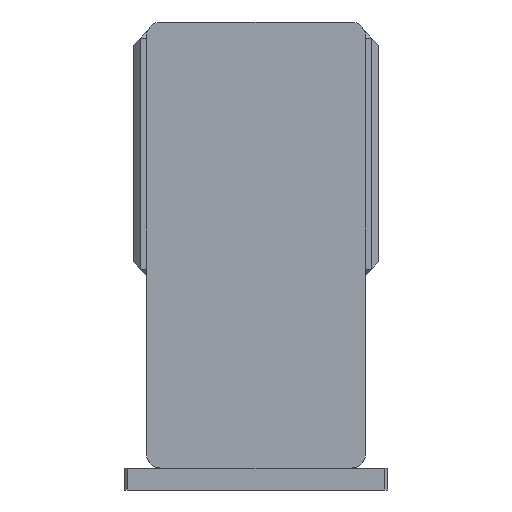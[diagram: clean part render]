
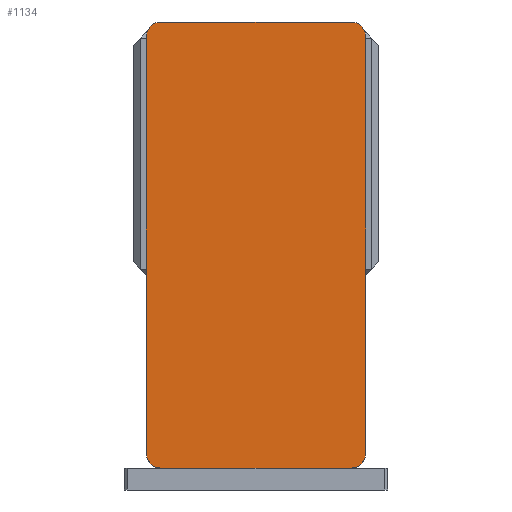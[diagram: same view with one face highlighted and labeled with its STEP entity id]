
A CAD part, left-side view. The second image highlights one B-rep face of the part: STEP entity #1134.
In plain terms, the highlighted planar face has unit normal (-1, 0, 0) as drawn and (0, 0, 1) by its records, which use the part's own axes.
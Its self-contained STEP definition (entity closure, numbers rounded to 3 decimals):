
#292 = CIRCLE ( 'NONE', #19209, 10. ) ;
#913 = EDGE_LOOP ( 'NONE', ( #1258, #1694, #3541, #16172, #15794, #2398, #14743, #3950 ) ) ;
#927 = DIRECTION ( 'NONE',  ( 0., 0., 1. ) ) ;
#1072 = DIRECTION ( 'NONE',  ( 0., 0., 1. ) ) ;
#1134 = ADVANCED_FACE ( 'NONE', ( #12510 ), #8460, .T. ) ;
#1142 = EDGE_CURVE ( 'NONE', #5045, #12192, #16747, .T. ) ;
#1258 = ORIENTED_EDGE ( 'NONE', *, *, #5735, .T. ) ;
#1694 = ORIENTED_EDGE ( 'NONE', *, *, #6374, .T. ) ;
#2238 = CARTESIAN_POINT ( 'NONE',  ( -65., -152.5, 105. ) ) ;
#2241 = VERTEX_POINT ( 'NONE', #2238 ) ;
#2398 = ORIENTED_EDGE ( 'NONE', *, *, #7075, .T. ) ;
#2499 = EDGE_CURVE ( 'NONE', #11233, #18512, #15458, .T. ) ;
#3541 = ORIENTED_EDGE ( 'NONE', *, *, #1142, .T. ) ;
#3950 = ORIENTED_EDGE ( 'NONE', *, *, #7183, .T. ) ;
#3972 = DIRECTION ( 'NONE',  ( 1., 0., 0. ) ) ;
#4090 = CARTESIAN_POINT ( 'NONE',  ( 75., 152.5, 105. ) ) ;
#4141 = DIRECTION ( 'NONE',  ( 0., 0., 1. ) ) ;
#4192 = DIRECTION ( 'NONE',  ( -1., 0., 0. ) ) ;
#4275 = CARTESIAN_POINT ( 'NONE',  ( -75., 152.5, 105. ) ) ;
#4522 = EDGE_CURVE ( 'NONE', #16252, #17760, #9391, .T. ) ;
#4886 = CARTESIAN_POINT ( 'NONE',  ( -75., 152.5, 105. ) ) ;
#4904 = LINE ( 'NONE', #7033, #17116 ) ;
#5045 = VERTEX_POINT ( 'NONE', #19656 ) ;
#5135 = CIRCLE ( 'NONE', #6953, 10. ) ;
#5182 = VECTOR ( 'NONE', #9661, 1000. ) ;
#5357 = CARTESIAN_POINT ( 'NONE',  ( 65., 152.5, 105. ) ) ;
#5629 = CIRCLE ( 'NONE', #7606, 10. ) ;
#5735 = EDGE_CURVE ( 'NONE', #2241, #11547, #4904, .T. ) ;
#6374 = EDGE_CURVE ( 'NONE', #11547, #5045, #5629, .T. ) ;
#6399 = EDGE_CURVE ( 'NONE', #12192, #11233, #5135, .T. ) ;
#6953 = AXIS2_PLACEMENT_3D ( 'NONE', #10662, #1072, #12274 ) ;
#7033 = CARTESIAN_POINT ( 'NONE',  ( -75., -152.5, 105. ) ) ;
#7075 = EDGE_CURVE ( 'NONE', #18512, #16252, #10343, .T. ) ;
#7183 = EDGE_CURVE ( 'NONE', #17760, #2241, #292, .T. ) ;
#7476 = CARTESIAN_POINT ( 'NONE',  ( -65., -142.5, 105. ) ) ;
#7606 = AXIS2_PLACEMENT_3D ( 'NONE', #10536, #927, #12136 ) ;
#7857 = DIRECTION ( 'NONE',  ( 0., 1., 0. ) ) ;
#8413 = DIRECTION ( 'NONE',  ( 0., 0., 1. ) ) ;
#8444 = CARTESIAN_POINT ( 'NONE',  ( 0., 0., 105. ) ) ;
#8460 = PLANE ( 'NONE',  #18392 ) ;
#9049 = CARTESIAN_POINT ( 'NONE',  ( 75., 142.5, 105. ) ) ;
#9071 = DIRECTION ( 'NONE',  ( 1., 0., 0. ) ) ;
#9391 = LINE ( 'NONE', #4886, #5182 ) ;
#9661 = DIRECTION ( 'NONE',  ( 0., -1., 0. ) ) ;
#9710 = CARTESIAN_POINT ( 'NONE',  ( -75., -142.5, 105. ) ) ;
#10226 = DIRECTION ( 'NONE',  ( 1., 0., 0. ) ) ;
#10343 = CIRCLE ( 'NONE', #10815, 10. ) ;
#10536 = CARTESIAN_POINT ( 'NONE',  ( 65., -142.5, 105. ) ) ;
#10662 = CARTESIAN_POINT ( 'NONE',  ( 65., 142.5, 105. ) ) ;
#10815 = AXIS2_PLACEMENT_3D ( 'NONE', #13732, #4141, #15329 ) ;
#11233 = VERTEX_POINT ( 'NONE', #5357 ) ;
#11547 = VERTEX_POINT ( 'NONE', #13811 ) ;
#12136 = DIRECTION ( 'NONE',  ( 1., 0., 0. ) ) ;
#12192 = VERTEX_POINT ( 'NONE', #9049 ) ;
#12251 = CARTESIAN_POINT ( 'NONE',  ( -75., 142.5, 105. ) ) ;
#12274 = DIRECTION ( 'NONE',  ( 1., 0., 0. ) ) ;
#12510 = FACE_OUTER_BOUND ( 'NONE', #913, .T. ) ;
#13732 = CARTESIAN_POINT ( 'NONE',  ( -65., 142.5, 105. ) ) ;
#13811 = CARTESIAN_POINT ( 'NONE',  ( 65., -152.5, 105. ) ) ;
#14743 = ORIENTED_EDGE ( 'NONE', *, *, #4522, .T. ) ;
#15329 = DIRECTION ( 'NONE',  ( 1., 0., 0. ) ) ;
#15458 = LINE ( 'NONE', #4275, #19171 ) ;
#15794 = ORIENTED_EDGE ( 'NONE', *, *, #2499, .T. ) ;
#16172 = ORIENTED_EDGE ( 'NONE', *, *, #6399, .T. ) ;
#16201 = CARTESIAN_POINT ( 'NONE',  ( -65., 152.5, 105. ) ) ;
#16252 = VERTEX_POINT ( 'NONE', #12251 ) ;
#16747 = LINE ( 'NONE', #4090, #20344 ) ;
#17116 = VECTOR ( 'NONE', #10226, 1000. ) ;
#17760 = VERTEX_POINT ( 'NONE', #9710 ) ;
#18392 = AXIS2_PLACEMENT_3D ( 'NONE', #8444, #8413, #3972 ) ;
#18512 = VERTEX_POINT ( 'NONE', #16201 ) ;
#18647 = DIRECTION ( 'NONE',  ( 0., 0., 1. ) ) ;
#19171 = VECTOR ( 'NONE', #4192, 1000. ) ;
#19209 = AXIS2_PLACEMENT_3D ( 'NONE', #7476, #18647, #9071 ) ;
#19656 = CARTESIAN_POINT ( 'NONE',  ( 75., -142.5, 105. ) ) ;
#20344 = VECTOR ( 'NONE', #7857, 1000. ) ;
